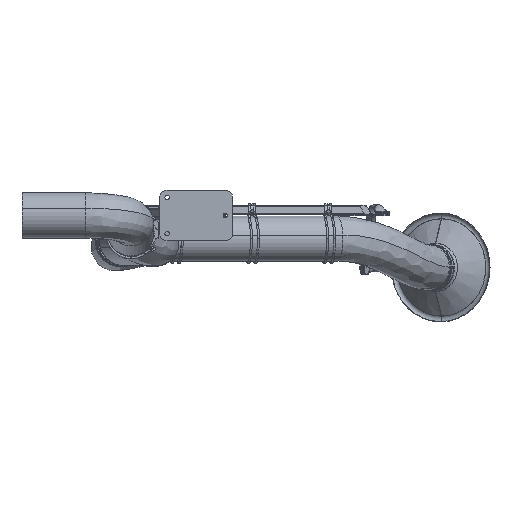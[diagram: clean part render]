
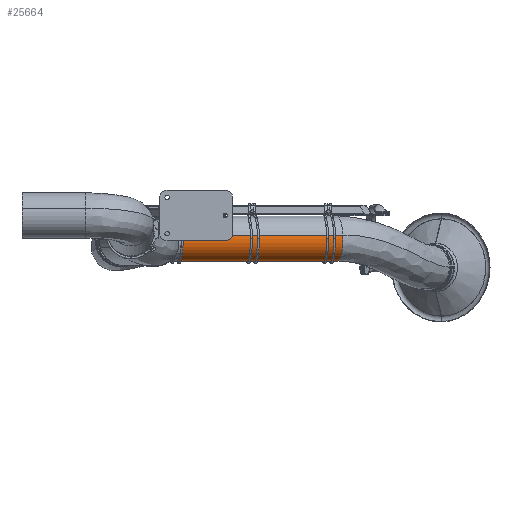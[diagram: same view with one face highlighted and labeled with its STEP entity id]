
A CAD part, left-side view. The second image highlights one B-rep face of the part: STEP entity #25664.
In plain terms, the highlighted free-form (B-spline) face has degree [3, 3] with [7, 6] control points.
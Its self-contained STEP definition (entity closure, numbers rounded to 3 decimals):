
#24575=CARTESIAN_POINT('',(836.616,-417.701,-64.));
#24576=DIRECTION('',(-0.259,0.966,0.));
#24577=DIRECTION('',(0.953,0.255,-0.165));
#24578=AXIS2_PLACEMENT_3D('',#24575,#24576,#24577);
#24583=CARTESIAN_POINT('',(896.158,-401.747,
-74.32));
#24584=CARTESIAN_POINT('',(882.929,-352.377,
-74.32));
#24585=CARTESIAN_POINT('',(856.472,-253.638,
-74.32));
#24586=CARTESIAN_POINT('',(816.786,-105.529,
-74.32));
#24587=CARTESIAN_POINT('',(790.329,-6.79,
-74.32));
#24588=CARTESIAN_POINT('',(777.101,42.579,
-74.32));
#24601=CARTESIAN_POINT('',(777.074,-433.655,
-53.68));
#24602=CARTESIAN_POINT('',(763.846,-384.285,
-53.68));
#24603=CARTESIAN_POINT('',(737.389,-285.546,
-53.68));
#24604=CARTESIAN_POINT('',(697.703,-137.438,
-53.68));
#24605=CARTESIAN_POINT('',(671.246,-38.698,
-53.68));
#24606=CARTESIAN_POINT('',(658.017,10.671,
-53.68));
#24687=CARTESIAN_POINT('',(717.559,26.625,-64.));
#24688=DIRECTION('',(-0.259,0.966,0.));
#24689=DIRECTION('',(0.953,0.255,-0.165));
#24690=AXIS2_PLACEMENT_3D('',#24687,#24688,#24689);
#25157=CARTESIAN_POINT('',(896.158,-401.747,
-74.32));
#25158=CARTESIAN_POINT('',(777.074,-433.655,
-53.68));
#25159=VERTEX_POINT('',#25157);
#25160=VERTEX_POINT('',#25158);
#25161=CARTESIAN_POINT('',(777.101,42.579,
-74.32));
#25162=CARTESIAN_POINT('',(658.017,10.671,
-53.68));
#25163=VERTEX_POINT('',#25161);
#25164=VERTEX_POINT('',#25162);
#25612=CARTESIAN_POINT('',(899.047,-410.497,
-70.429));
#25613=CARTESIAN_POINT('',(898.253,-407.535,
-70.429));
#25614=CARTESIAN_POINT('',(857.774,-256.464,
-70.429));
#25615=CARTESIAN_POINT('',(816.501,-102.431,
-70.429));
#25616=CARTESIAN_POINT('',(776.022,48.64,
-70.429));
#25617=CARTESIAN_POINT('',(775.228,51.602,
-70.429));
#25618=CARTESIAN_POINT('',(895.225,-411.521,
-108.688));
#25619=CARTESIAN_POINT('',(894.432,-408.559,
-108.688));
#25620=CARTESIAN_POINT('',(853.952,-257.488,
-108.688));
#25621=CARTESIAN_POINT('',(812.679,-103.455,
-108.688));
#25622=CARTESIAN_POINT('',(772.2,47.616,
-108.688));
#25623=CARTESIAN_POINT('',(771.406,50.578,
-108.688));
#25624=CARTESIAN_POINT('',(865.67,-419.44,
-131.993));
#25625=CARTESIAN_POINT('',(864.876,-416.478,
-131.993));
#25626=CARTESIAN_POINT('',(824.397,-265.407,
-131.993));
#25627=CARTESIAN_POINT('',(783.124,-111.374,
-131.993));
#25628=CARTESIAN_POINT('',(742.645,39.697,
-131.993));
#25629=CARTESIAN_POINT('',(741.851,42.659,
-131.993));
#25630=CARTESIAN_POINT('',(829.028,-429.258,
-125.642));
#25631=CARTESIAN_POINT('',(828.235,-426.296,
-125.642));
#25632=CARTESIAN_POINT('',(787.755,-275.225,
-125.642));
#25633=CARTESIAN_POINT('',(746.482,-121.192,
-125.642));
#25634=CARTESIAN_POINT('',(706.003,29.878,
-125.642));
#25635=CARTESIAN_POINT('',(705.209,32.841,
-125.642));
#25636=CARTESIAN_POINT('',(792.387,-439.076,
-119.291));
#25637=CARTESIAN_POINT('',(791.593,-436.114,
-119.291));
#25638=CARTESIAN_POINT('',(751.114,-285.043,
-119.291));
#25639=CARTESIAN_POINT('',(709.841,-131.011,
-119.291));
#25640=CARTESIAN_POINT('',(669.361,20.06,
-119.291));
#25641=CARTESIAN_POINT('',(668.567,23.022,
-119.291));
#25642=CARTESIAN_POINT('',(771.775,-444.599,
-87.29));
#25643=CARTESIAN_POINT('',(770.982,-441.637,
-87.29));
#25644=CARTESIAN_POINT('',(730.502,-290.566,
-87.29));
#25645=CARTESIAN_POINT('',(689.229,-136.533,
-87.29));
#25646=CARTESIAN_POINT('',(648.75,14.538,
-87.29));
#25647=CARTESIAN_POINT('',(647.956,17.5,
-87.29));
#25648=CARTESIAN_POINT('',(780.199,-442.342,
-49.83));
#25649=CARTESIAN_POINT('',(779.405,-439.38,
-49.83));
#25650=CARTESIAN_POINT('',(738.926,-288.309,
-49.83));
#25651=CARTESIAN_POINT('',(697.653,-134.276,
-49.83));
#25652=CARTESIAN_POINT('',(657.173,16.795,
-49.83));
#25653=CARTESIAN_POINT('',(656.38,19.757,
-49.83));
#25654=(BOUNDED_SURFACE()B_SPLINE_SURFACE(3,3,((#25612,#25613,#25614,#25615,
#25616,#25617),(#25618,#25619,#25620,#25621,#25622,#25623),(#25624,#25625,
#25626,#25627,#25628,#25629),(#25630,#25631,#25632,#25633,#25634,#25635),
(#25636,#25637,#25638,#25639,#25640,#25641),(#25642,#25643,#25644,#25645,#25646,
#25647),(#25648,#25649,#25650,#25651,#25652,#25653)),.UNSPECIFIED.,.F.,.F.,.F.)B_SPLINE_SURFACE_WITH_KNOTS((4,3,4),(4,1,1,4),(0.,1.,2.),(-0.02,0.,1.,
1.02),.UNSPECIFIED.)GEOMETRIC_REPRESENTATION_ITEM()RATIONAL_B_SPLINE_SURFACE((
(1.187,1.187,1.187,1.187,
1.187,1.187),(0.938,0.938,
0.938,0.938,0.938,0.938),(
0.938,0.938,0.938,0.938,
0.938,0.938),(1.187,1.187,
1.187,1.187,1.187,1.187),(
0.938,0.938,0.938,0.938,
0.938,0.938),(0.938,0.938,
0.938,0.938,0.938,0.938),(
1.187,1.187,1.187,1.187,
1.187,1.187)))REPRESENTATION_ITEM('')SURFACE());
#25655=ORIENTED_EDGE('',*,*,#25599,.F.);
#25657=ORIENTED_EDGE('',*,*,#25656,.T.);
#25659=ORIENTED_EDGE('',*,*,#25658,.T.);
#25661=ORIENTED_EDGE('',*,*,#25660,.F.);
#25662=EDGE_LOOP('',(#25655,#25657,#25659,#25661));
#25663=FACE_OUTER_BOUND('',#25662,.F.);
#24579=CIRCLE('',#24578,62.5);
#24589=B_SPLINE_CURVE_WITH_KNOTS('',3,(#24583,#24584,#24585,#24586,#24587,
#24588),.UNSPECIFIED.,.F.,.F.,(4,1,1,4),(0.,0.333,
0.667,1.),.UNSPECIFIED.);
#24607=B_SPLINE_CURVE_WITH_KNOTS('',3,(#24601,#24602,#24603,#24604,#24605,
#24606),.UNSPECIFIED.,.F.,.F.,(4,1,1,4),(0.,0.333,
0.667,1.),.UNSPECIFIED.);
#24691=CIRCLE('',#24690,62.5);
#25599=EDGE_CURVE('',#25159,#25160,#24579,.T.);
#25656=EDGE_CURVE('',#25159,#25163,#24589,.T.);
#25658=EDGE_CURVE('',#25163,#25164,#24691,.T.);
#25660=EDGE_CURVE('',#25160,#25164,#24607,.T.);
#25664=ADVANCED_FACE('',(#25663),#25654,.T.);
